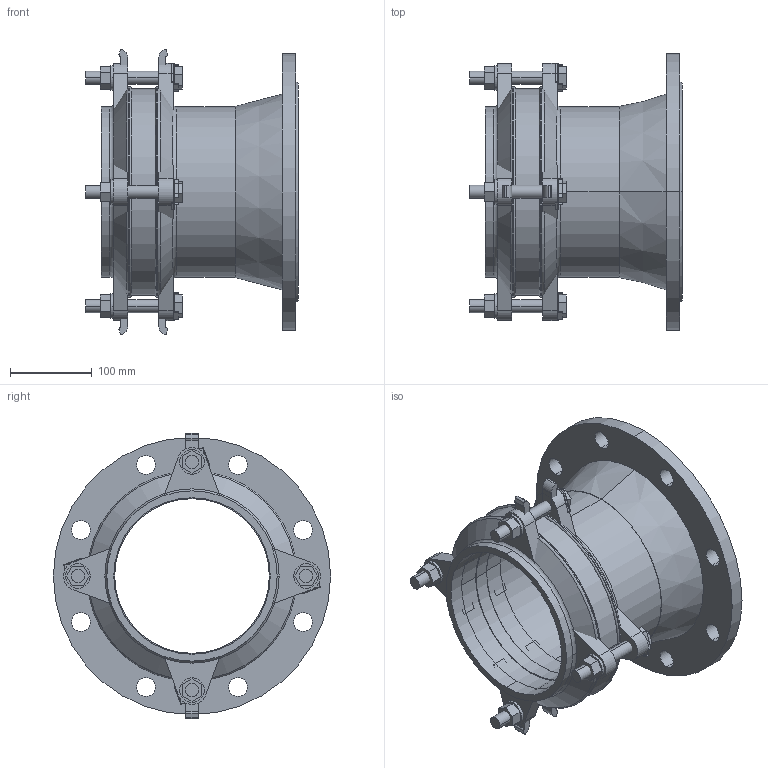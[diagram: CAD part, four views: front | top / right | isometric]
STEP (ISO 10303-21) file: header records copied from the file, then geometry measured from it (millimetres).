
FILE_DESCRIPTION(('STEP AP214'),'1');
FILE_NAME('EM00005649 DN 200-150.STP','2015-01-29T13:51:12',(' '),(' '),'Spatial InterOp 3D',' ',' ');
FILE_SCHEMA(('automotive_design'));
Length unit declared in the file: millimetre
Products named in the file (44): 3D-Objekt
Bounding box: 261 x 340 x 350 mm (x, y, z)
Volume: 3681819.1 mm3; surface area: 868597.5 mm2
Topology: 44 solids, 44 shells, 352 faces, 790 edges, 526 vertices
Faces by surface type: plane 228, cylinder 100, cone 12, torus 12
Entity records: 13730 total; most frequent: DIRECTION 1840, CARTESIAN_POINT 1712, ORIENTED_EDGE 1580, EDGE_CURVE 790, AXIS2_PLACEMENT_3D 654, LINE 532, VECTOR 532, VERTEX_POINT 526
